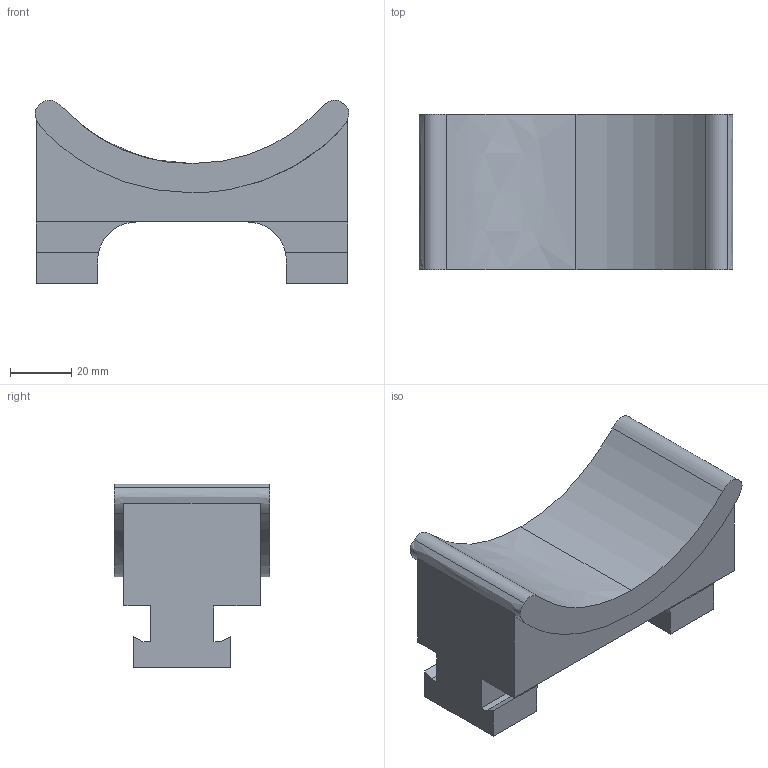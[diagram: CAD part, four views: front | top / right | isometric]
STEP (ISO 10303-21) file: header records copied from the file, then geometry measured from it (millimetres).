
FILE_DESCRIPTION(('TurboCAD Mac Pro'),'Build 980');
FILE_NAME('P1754PO.stp',' ',(''),(''),'ACIS Interop','IMSI','TurboCAD Mac Pro BY IMSI, INCORPORATED');
FILE_SCHEMA(('automotive_design'));
Length unit declared in the file: inch
Products named in the file (1): 1
Bounding box: 102.43 x 50.8 x 59.96 mm (x, y, z)
Volume: 151280.6 mm3; surface area: 29472.4 mm2
Topology: 1 solids, 1 shells, 42 faces, 123 edges, 82 vertices
Faces by surface type: plane 27, bspline 11, cylinder 4
Entity records: 1817 total; most frequent: CARTESIAN_POINT 411, ORIENTED_EDGE 246, DIRECTION 173, EDGE_CURVE 123, VERTEX_POINT 82, LINE 77, VECTOR 77, AXIS2_PLACEMENT_3D 48
